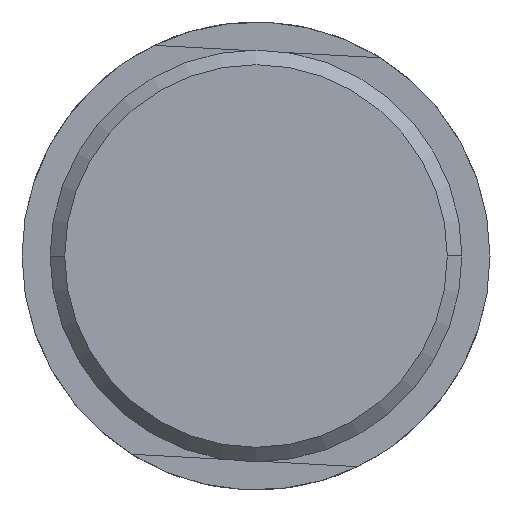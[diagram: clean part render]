
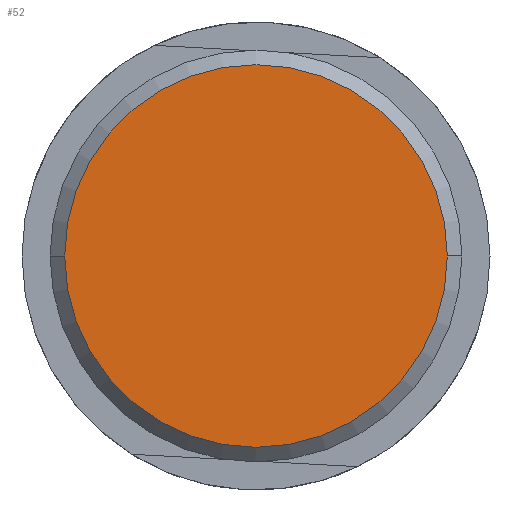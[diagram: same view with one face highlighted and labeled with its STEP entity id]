
A CAD part, front view. The second image highlights one B-rep face of the part: STEP entity #52.
In plain terms, the highlighted planar face has unit normal (0, -1, 0).
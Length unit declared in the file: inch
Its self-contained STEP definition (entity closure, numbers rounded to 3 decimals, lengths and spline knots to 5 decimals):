
#52 = ADVANCED_FACE ( 'NONE', ( #1111 ), #2088, .T. ) ;
#523 = CARTESIAN_POINT ( 'NONE',  ( -2.47194, -0.1994, 0. ) ) ;
#582 = CARTESIAN_POINT ( 'NONE',  ( -4.10694, -0.1994, 0. ) ) ;
#778 = CIRCLE ( 'NONE', #1652, 0.8175 ) ;
#826 = CIRCLE ( 'NONE', #1713, 0.8175 ) ;
#1111 = FACE_OUTER_BOUND ( 'NONE', #1937, .T. ) ;
#1142 = CARTESIAN_POINT ( 'NONE',  ( -3.28944, -0.1994, 0. ) ) ;
#1143 = DIRECTION ( 'NONE',  ( 0., 1., 0. ) ) ;
#1144 = DIRECTION ( 'NONE',  ( -1., 0., 0. ) ) ;
#1401 = AXIS2_PLACEMENT_3D ( 'NONE', #2095, #2109, #2091 ) ;
#1554 = EDGE_CURVE ( 'NONE', #1904, #1845, #778, .T. ) ;
#1589 = EDGE_CURVE ( 'NONE', #1845, #1904, #826, .T. ) ;
#1652 = AXIS2_PLACEMENT_3D ( 'NONE', #2194, #2195, #2196 ) ;
#1713 = AXIS2_PLACEMENT_3D ( 'NONE', #1142, #1143, #1144 ) ;
#1799 = ORIENTED_EDGE ( 'NONE', *, *, #1554, .F. ) ;
#1801 = ORIENTED_EDGE ( 'NONE', *, *, #1589, .F. ) ;
#1845 = VERTEX_POINT ( 'NONE', #523 ) ;
#1904 = VERTEX_POINT ( 'NONE', #582 ) ;
#1937 = EDGE_LOOP ( 'NONE', ( #1799, #1801 ) ) ;
#2088 = PLANE ( 'NONE',  #1401 ) ;
#2091 = DIRECTION ( 'NONE',  ( 0., 0., -1. ) ) ;
#2095 = CARTESIAN_POINT ( 'NONE',  ( -2.60544, -0.1994, 0. ) ) ;
#2109 = DIRECTION ( 'NONE',  ( 0., -1., 0. ) ) ;
#2194 = CARTESIAN_POINT ( 'NONE',  ( -3.28944, -0.1994, 0. ) ) ;
#2195 = DIRECTION ( 'NONE',  ( 0., 1., 0. ) ) ;
#2196 = DIRECTION ( 'NONE',  ( -1., 0., 0. ) ) ;
